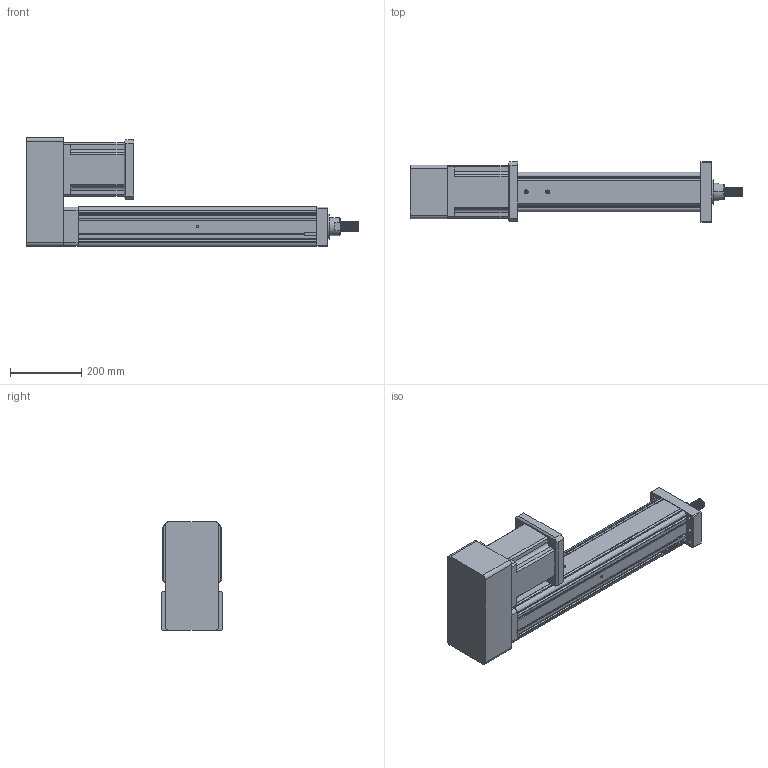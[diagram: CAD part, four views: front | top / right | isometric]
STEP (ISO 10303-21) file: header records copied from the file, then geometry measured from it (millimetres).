
FILE_DESCRIPTION (( 'STEP AP203' ), '1' );
FILE_NAME ('YRJ110-L500-H3K1.STEP', '2020-01-04T06:29:52', ( 'User' ), ( 'China' ), 'SwSTEP 2.0', 'SolidWorks 2016', '' );
FILE_SCHEMA (( 'CONFIG_CONTROL_DESIGN' ));
Length unit declared in the file: millimetre
Products named in the file (7): 095-100俴最倰第; 萇儂碟-110; K1-110; 142熬厒儂; YRJ110-L500-H3K1; H3-110-1; H3-110-2
Assembly tree (6 placements, depth 2):
  YRJ110-L500-H3K1
    095-100俴最倰第
    萇儂碟-110
    142熬厒儂
    H3-110-1
    H3-110-2
    K1-110
Bounding box: 931 x 170 x 305.5 mm (x, y, z)
Volume: 12723246.3 mm3; surface area: 1086697.4 mm2
Topology: 6 solids, 6 shells, 359 faces, 1001 edges, 648 vertices
Faces by surface type: plane 168, cylinder 160, cone 27, bspline 4
Entity records: 20190 total; most frequent: CARTESIAN_POINT 10350, ORIENTED_EDGE 1970, DIRECTION 1827, EDGE_CURVE 985, VERTEX_POINT 648, LINE 617, VECTOR 617, AXIS2_PLACEMENT_3D 605
